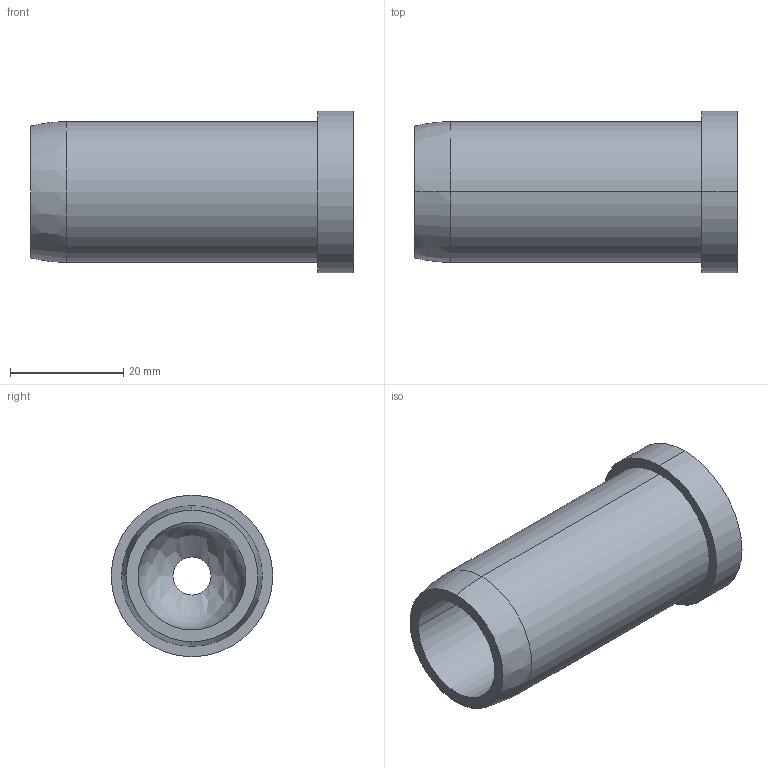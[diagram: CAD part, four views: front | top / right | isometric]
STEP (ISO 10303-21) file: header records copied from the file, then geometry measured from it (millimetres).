
FILE_DESCRIPTION (( 'STEP AP203' ), '1' );
FILE_NAME ('FDPCK-MC1-S-ENDTHRD.step', '2019-09-11T18:43:20', ( 'ydmin' ), ( '' ), 'SwSTEP 2.0', 'SolidWorks 2017', '' );
FILE_SCHEMA (( 'CONFIG_CONTROL_DESIGN' ));
Length unit declared in the file: inch
Products named in the file (1): FDPCK-MC1-S-ENDTHRD
Bounding box: 57.15 x 28.57 x 28.57 mm (x, y, z)
Volume: 14850.9 mm3; surface area: 8588.9 mm2
Topology: 1 solids, 1 shells, 14 faces, 30 edges, 18 vertices
Faces by surface type: cylinder 8, bspline 3, plane 3
Entity records: 492 total; most frequent: CARTESIAN_POINT 106, DIRECTION 72, ORIENTED_EDGE 56, AXIS2_PLACEMENT_3D 32, EDGE_CURVE 28, CIRCLE 20, VERTEX_POINT 18, EDGE_LOOP 18
